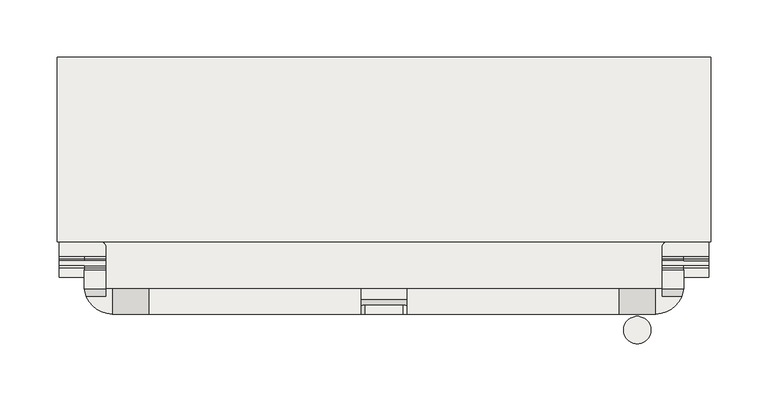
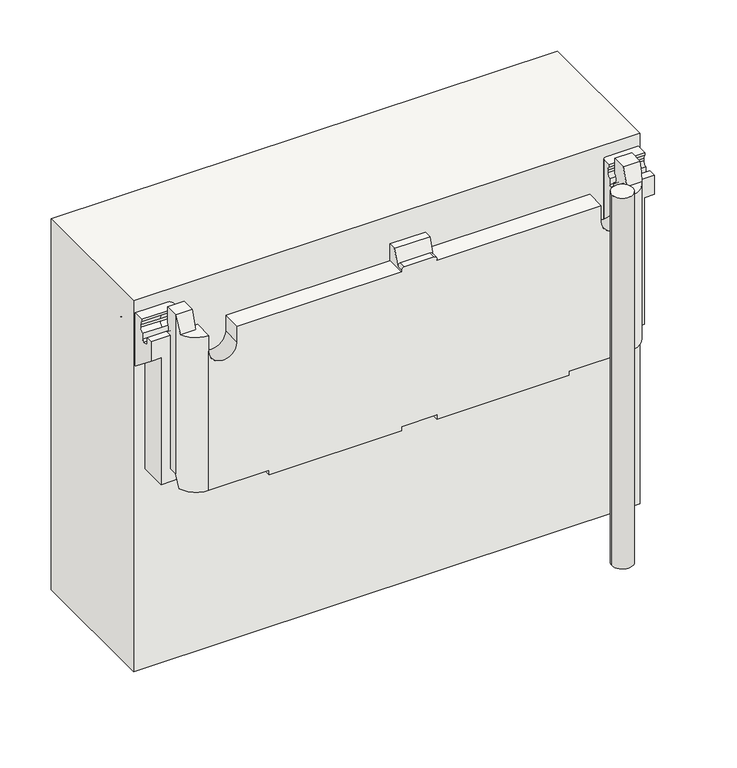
"""IFC4 building model written with IfcOpenShell, lengths in millimetres: covering geometry, panel VP Modulo prova ultima texture : panel VP Modulo prova ultima texture."""

from ifc_helpers import new_model, si_unit, point, frame, frame_2d, origin, origin_with_axes, place, context, project, spatial, polyline, circle_curve, ellipse_curve, trimmed, segment, composite_curve, outline, extrude, source, transform, mapped, element, save
from ifc_brep_helpers import plane_surface, cylinder_surface, revolved_surface, advanced_brep


def covering_a6f7bad7(model_context):
    return source(origin(), model_context, "Body", "SolidModel", [
        advanced_brep(
        [(-20.0, 40.503817, 442.8593239), (-20.0, 49.5015434, 442.8593239), (-20.0, 49.5015434, 422.8622671), (-20.0, 27.5015432, 422.8622671), (-20.0, 27.5015432, 424.8622671), (-20.0, 34.5021229, 424.8622671), (20.0, 49.5015434, 442.8593239), (20.0, 40.503817, 442.8593239), (20.0, 34.5021229, 424.8622671), (20.0, 27.5015432, 424.8622671), (20.0, 27.5015432, 422.8622671), (20.0, 49.5015434, 422.8622671), (-17.0, 35.5025688, 427.8622671), (17.0, 35.5025688, 427.8622671), (17.0, 27.5015432, 427.8622671), (-17.0, 27.5015432, 427.8622671), (-262.4808119, 49.5015434, 442.8571429), (-262.4808119, 65.772467, 442.8571429), (-262.4808119, 65.772467, 424.9140987), (-262.4808119, 63.7739273, 420.0185877), (-262.4808119, 63.7739273, 417.0185877), (-262.4808119, 67.7745502, 412.3223878), (-262.4808119, 59.5, 412.3223878), (-262.4808119, 59.5, 252.8579803), (-262.4808119, 49.5015434, 252.8579803), (262.4808119, 67.7745502, 412.3223878), (262.4808119, 63.7739273, 417.0185877), (262.4808119, 63.7739273, 420.0185877), (262.4808119, 65.772467, 424.9140987), (262.4808119, 65.772467, 442.8571429), (262.4808119, 49.5015434, 442.8571429), (262.4808119, 49.5015434, 252.8579803), (262.4808119, 59.5, 252.8579803), (262.4808119, 59.5, 412.3223878), (205.7808119, 27.5015432, 422.8622671), (205.7808119, 49.5015434, 422.8622671), (243.7808119, 42.6167555, 422.8622671), (243.7808119, 49.5015434, 422.8622671), (237.7808119, 49.5015434, 422.8622671), (237.7808119, 27.5015432, 422.8622671), (260.6550436, 42.6167555, 422.8622671), (-237.7808119, 27.5015432, 422.8622671), (-237.7808119, 49.5015434, 422.8622671), (-243.7808119, 49.5015434, 422.8622671), (-243.7808119, 42.6167555, 422.8622671), (-260.6550436, 42.6167555, 422.8622671), (-205.7808119, 49.5015434, 422.8622671), (-205.7808119, 27.5015432, 422.8622671), (-262.4808119, 109.8415131, 259.8586567), (262.4808119, 109.8415131, 259.8586567), (262.4808119, 141.2113001, 287.4991493), (-262.4808119, 141.2113001, 287.4991493), (-262.4808119, 147.3447094, 293.9613768), (262.4808119, 147.3447094, 293.9613768), (262.4808119, 184.4941844, 340.844032), (-262.4808119, 184.4941844, 340.844032), (262.4808119, 184.4941844, 367.8428869), (-262.4808119, 184.4941844, 367.8428869), (284.4808119, 184.4914281, 367.8428869), (284.4808119, 202.488872, 367.8428869), (-284.4808119, 202.488872, 367.8428869), (-284.4808119, 184.4914281, 367.8428869), (-284.4808119, 202.488872, 328.1296117), (284.4808119, 202.488872, 328.1296117), (262.4808119, 193.4423608, 286.7510809), (-262.4808119, 193.4423608, 286.7510809), (-284.4808119, 193.4423608, 286.7510809), (284.4808119, 193.4423608, 286.7510809), (262.4808119, 190.281945, 285.6233908), (-262.4808119, 190.281945, 285.6233908), (284.4808119, 190.281945, 285.6233908), (284.4808119, 59.5, 389.2540452), (273.4808119, 59.5, 389.2540452), (273.4808119, 180.2456216, 293.5760999), (262.4808119, 180.2456216, 293.5760999), (-262.4808119, 180.2456216, 293.5760999), (-273.4808119, 180.2456216, 293.5760999), (-273.4808119, 59.5, 389.2540452), (-284.4808119, 59.5, 389.2540452), (-284.4808119, 190.281945, 285.6233908), (262.4808119, 174.5899002, 292.921018), (-262.4808119, 174.5899002, 292.921018), (273.4808119, 174.5899002, 292.921018), (273.4808119, 160.5878776, 275.2504937), (-273.4808119, 160.5878776, 275.2504937), (-273.4808119, 174.5899002, 292.921018), (-273.4808119, 118.1414154, 237.8501402), (273.4808119, 118.1414154, 237.8501402), (237.7808119, 118.1414154, 237.8501402), (197.7808119, 118.1414154, 237.8501402), (20.0, 118.1414154, 237.8501402), (-20.0, 118.1414154, 237.8501402), (-197.7808119, 118.1414154, 237.8501402), (-237.7808119, 118.1414154, 237.8501402), (-273.4808119, 59.5, 237.8622688), (-237.7808119, 78.1414154, 237.8622688), (-197.7808119, 78.1414154, 237.8622688), (-20.0, 78.1414154, 237.8622688), (20.0, 78.1414154, 237.8622688), (197.7808119, 78.1414154, 237.8622688), (237.7808119, 78.1414154, 237.8622688), (273.4808119, 59.5, 237.8622688), (252.4808119, 59.5, 237.8622688), (252.4808119, 44.6291413, 237.8622688), (261.4118126, 44.6291413, 237.8622688), (237.7808119, 27.5015432, 237.8622688), (169.4808119, 27.5015432, 237.8622688), (169.4808119, 67.5015432, 237.8622688), (20.0, 67.5015432, 237.8622688), (20.0, 27.5015432, 237.8622688), (-20.0, 27.5015432, 237.8622688), (-20.0, 67.5015432, 237.8622688), (-169.4808119, 67.5015432, 237.8622688), (-169.4808119, 27.5015432, 237.8622688), (-237.7808119, 27.5015432, 237.8622688), (-261.4118126, 44.6291413, 237.8622688), (-252.4808119, 44.6291413, 237.8622688), (-252.4808119, 59.5, 237.8622688), (-205.7808119, 27.5015432, 403.8387365), (-237.7808119, 27.5015432, 403.8387365), (-169.4808119, 27.5015432, 232.8526833), (-20.0, 27.5015432, 232.8526833), (20.0, 27.5015432, 232.8526833), (169.4808119, 27.5015432, 232.8526833), (237.7808119, 27.5015432, 403.8387365), (205.7808119, 27.5015432, 403.8387365), (-237.7808119, 49.5015434, 403.8387365), (-205.7808119, 49.5015434, 403.8387365), (205.7808119, 49.5015434, 403.8387365), (237.7808119, 49.5015434, 403.8387365), (243.7808119, 49.5015434, 259.8586567), (-243.7808119, 49.5015434, 259.8586567), (-262.4808119, 101.3665857, 259.8586567), (-251.8742102, 90.7599839, 259.8586567), (-248.1742102, 90.7599839, 259.8586567), (-243.7808119, 86.3665857, 259.8586567), (243.7808119, 86.3665857, 259.8586567), (248.1742102, 90.7599839, 259.8586567), (251.8742102, 90.7599839, 259.8586567), (262.4808119, 101.3665857, 259.8586567), (-284.4808119, 59.5, 412.3223878), (-284.4808119, 67.7745502, 412.3223878), (-284.4808119, 67.7745502, 405.3225531), (-284.4808119, 69.7745502, 403.3225531), (-284.4808119, 74.0001297, 403.3225531), (-284.4808119, 76.0001297, 405.3225531), (-284.4808119, 76.0001297, 412.3223878), (-284.4808119, 80.0007527, 417.0185877), (-284.4808119, 80.0007527, 420.0185877), (-284.4808119, 78.002213, 424.9140987), (-284.4808119, 78.002213, 427.8658136), (-284.4808119, 115.166168, 427.8658136), (-284.4808119, 118.166168, 424.8658136), (-284.4808119, 118.166168, 408.5852612), (-284.4808119, 119.6447617, 405.9996621), (-262.4808119, 119.6447617, 405.9996621), (-262.4808119, 118.166168, 408.5852612), (-262.4808119, 118.166168, 424.8658136), (-262.4808119, 115.166168, 427.8658136), (-262.4808119, 101.3665857, 427.8658136), (-252.4808119, 59.5, 252.8579803), (-243.7808119, 67.7745502, 412.3223878), (-243.7808119, 67.7745502, 405.3225531), (-262.4808119, 67.7745502, 405.3225531), (-262.4808119, 69.7745502, 403.3225531), (-243.7808119, 69.7745502, 403.3225531), (-243.7808119, 74.0001297, 403.3225531), (-262.4808119, 74.0001297, 403.3225531), (-262.4808119, 76.0001297, 405.3225531), (-243.7808119, 76.0001297, 405.3225531), (-243.7808119, 76.0001297, 412.3223878), (-262.4808119, 76.0001297, 412.3223878), (-262.4808119, 80.0007527, 417.0185877), (-243.7808119, 80.0007527, 417.0185877), (-243.7808119, 80.0007527, 420.0185877), (-262.4808119, 80.0007527, 420.0185877), (-262.4808119, 78.002213, 424.9140987), (-243.7808119, 78.002213, 424.9140987), (-243.7808119, 78.002213, 427.8658136), (-243.7808119, 86.3665857, 427.8658136), (-248.1742102, 90.7599839, 427.8658136), (-251.8742102, 90.7599839, 427.8658136), (-243.7808119, 63.7739273, 417.0185877), (-243.7808119, 63.7739273, 420.0185877), (-243.7808119, 65.772467, 424.9140987), (-243.7808119, 65.772467, 442.8571429), (-243.7808119, 49.5015434, 442.8571429), (284.4808119, 119.6447617, 405.9996621), (284.4808119, 118.166168, 408.5852612), (284.4808119, 118.166168, 424.8658136), (284.4808119, 115.166168, 427.8658136), (284.4808119, 78.002213, 427.8658136), (284.4808119, 78.002213, 424.9140987), (284.4808119, 80.0007527, 420.0185877), (284.4808119, 80.0007527, 417.0185877), (284.4808119, 76.0001297, 412.3223878), (284.4808119, 76.0001297, 405.3225531), (284.4808119, 74.0001297, 403.3225531), (284.4808119, 69.7745502, 403.3225531), (284.4808119, 67.7745502, 405.3225531), (284.4808119, 67.7745502, 412.3223878), (284.4808119, 59.5, 412.3223878), (262.4808119, 115.166168, 427.8658136), (262.4808119, 118.166168, 424.8658136), (262.4808119, 118.166168, 408.5852612), (262.4808119, 119.6447617, 405.9996621), (262.4808119, 101.3665857, 427.8658136), (252.4808119, 59.5, 252.8579803), (262.4808119, 69.7745502, 403.3225531), (262.4808119, 67.7745502, 405.3225531), (262.4808119, 76.0001297, 405.3225531), (262.4808119, 74.0001297, 403.3225531), (262.4808119, 80.0007527, 417.0185877), (262.4808119, 76.0001297, 412.3223878), (262.4808119, 78.002213, 424.9140987), (262.4808119, 80.0007527, 420.0185877), (243.7808119, 49.5015434, 442.8571429), (243.7808119, 65.772467, 442.8571429), (243.7808119, 65.772467, 424.9140987), (243.7808119, 63.7739273, 420.0185877), (243.7808119, 63.7739273, 417.0185877), (243.7808119, 67.7745502, 412.3223878), (243.7808119, 67.7745502, 405.3225531), (243.7808119, 69.7745502, 403.3225531), (243.7808119, 74.0001297, 403.3225531), (243.7808119, 76.0001297, 405.3225531), (243.7808119, 76.0001297, 412.3223878), (243.7808119, 80.0007527, 417.0185877), (243.7808119, 80.0007527, 420.0185877), (243.7808119, 78.002213, 424.9140987), (243.7808119, 78.002213, 427.8658136), (243.7808119, 86.3665857, 427.8658136), (251.8742102, 90.7599839, 427.8658136), (248.1742102, 90.7599839, 427.8658136), (237.7808119, 78.1414154, 232.8526833), (197.7808119, 78.1414154, 232.8526833), (197.7808119, 118.1414154, 232.8526833), (237.7808119, 118.1414154, 232.8526833), (-20.0, 78.1414154, 232.8526833), (-20.0, 118.1414154, 232.8526833), (20.0, 118.1414154, 232.8526833), (20.0, 78.1414154, 232.8526833), (-237.7808119, 78.1414154, 232.8526833), (-237.7808119, 118.1414154, 232.8526833), (-197.7808119, 118.1414154, 232.8526833), (-197.7808119, 78.1414154, 232.8526833), (20.0, 67.5015432, 232.8526833), (169.4808119, 67.5015432, 232.8526833), (-20.0, 67.5015432, 232.8526833), (-169.4808119, 67.5015432, 232.8526833), (-252.4808119, 49.5015434, 252.8579803), (252.4808119, 49.5015434, 252.8579803)],
        [
            (0, 1),
            (1, 2),
            (2, 3),
            (3, 4),
            (4, 5),
            (5, 0),
            (6, 7),
            (7, 8),
            (8, 9),
            (9, 10),
            (10, 11),
            (11, 6),
            (0, 7),
            (6, 1),
            (5, 12, ellipse_curve(frame((-17.0, 34.5021229, 424.8622671), z_axis=(0.0, 0.9486409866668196, -0.31635467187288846), x_axis=(0.0, 0.31635467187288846, 0.9486409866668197)), 3.1624187, 3.0)),
            (12, 13),
            (13, 8, ellipse_curve(frame((17.0, 34.5021229, 424.8622671), z_axis=(0.0, 0.9486409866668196, -0.31635467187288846), x_axis=(0.0, 0.31635467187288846, 0.9486409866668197)), 3.1624187, 3.0)),
            (14, 9, circle_curve(frame((17.0, 27.5015432, 424.8622671), z_axis=(0.0, 1.0, 0.0), x_axis=(-1.0, 0.0, 0.0)), 3.0)),
            (13, 14),
            (4, 15, circle_curve(frame((-17.0, 27.5015432, 424.8622671), z_axis=(0.0, 1.0, 0.0), x_axis=(-1.0, 0.0, 0.0)), 3.0)),
            (15, 12),
            (15, 14),
            (16, 17),
            (17, 18),
            (18, 19, circle_curve(frame((-262.4808119, 70.7690822, 420.0185877), z_axis=(1.0, 0.0, 0.0), x_axis=(0.0, -1.0, 0.0)), 6.9951549)),
            (19, 20),
            (20, 21, circle_curve(frame((-262.4808119, 68.5305961, 417.0185877), z_axis=(1.0, 0.0, 0.0), x_axis=(0.0, -1.0, 0.0)), 4.7566689)),
            (21, 22),
            (22, 23),
            (23, 24),
            (24, 16),
            (25, 26, circle_curve(frame((262.4808119, 68.5305961, 417.0185877), z_axis=(-1.0, 0.0, 0.0), x_axis=(0.0, -1.0, 0.0)), 4.7566689)),
            (26, 27),
            (27, 28, circle_curve(frame((262.4808119, 70.7690822, 420.0185877), z_axis=(-1.0, 0.0, 0.0), x_axis=(0.0, -1.0, 0.0)), 6.9951549)),
            (28, 29),
            (29, 30),
            (30, 31),
            (31, 32),
            (32, 33),
            (33, 25),
            (10, 34),
            (34, 35),
            (35, 11),
            (36, 37),
            (37, 38),
            (38, 39),
            (39, 40, circle_curve(frame((237.7808119, 52.367225, 422.8622671), z_axis=(0.0, 0.0, 1.0), x_axis=(1.0, 0.0, 0.0)), 24.8656818)),
            (40, 36),
            (41, 42),
            (42, 43),
            (43, 44),
            (44, 45),
            (45, 41, circle_curve(frame((-237.7808119, 52.367225, 422.8622671), z_axis=(0.0, 0.0, 1.0), x_axis=(-1.0, 0.0, 0.0)), 24.8656818)),
            (46, 47),
            (47, 3),
            (2, 46),
            (48, 49),
            (49, 50),
            (50, 51),
            (51, 48),
            (52, 53),
            (53, 54),
            (54, 55),
            (55, 52),
            (54, 56),
            (56, 57),
            (57, 55),
            (56, 58),
            (58, 59),
            (59, 60),
            (60, 61),
            (61, 57),
            (62, 60),
            (59, 63),
            (63, 62),
            (64, 65),
            (65, 66),
            (66, 62),
            (63, 67),
            (67, 64),
            (64, 68, circle_curve(frame((262.4808119, 191.5102381, 287.1734973), z_axis=(-1.0, 0.0, 0.0), x_axis=(0.0, -1.0, 0.0)), 1.9777598)),
            (68, 69),
            (69, 65, circle_curve(frame((-262.4808119, 191.5102381, 287.1734973), z_axis=(1.0, 0.0, 0.0), x_axis=(0.0, -1.0, 0.0)), 1.9777598)),
            (68, 70),
            (70, 71),
            (71, 72),
            (72, 73),
            (73, 74),
            (74, 75),
            (75, 76),
            (76, 77),
            (77, 78),
            (78, 79),
            (79, 69),
            (74, 80, circle_curve(frame((262.4808119, 177.7453022, 290.4206954), z_axis=(1.0, 0.0, 0.0), x_axis=(0.0, -1.0, 0.0)), 4.0259377)),
            (80, 81),
            (81, 75, circle_curve(frame((-262.4808119, 177.7453022, 290.4206954), z_axis=(-1.0, 0.0, 0.0), x_axis=(0.0, -1.0, 0.0)), 4.0259377)),
            (80, 82),
            (82, 83),
            (83, 84),
            (84, 85),
            (85, 81),
            (86, 84),
            (83, 87),
            (87, 88),
            (88, 89),
            (89, 90),
            (90, 91),
            (91, 92),
            (92, 93),
            (93, 86),
            (50, 53, circle_curve(frame((262.4808119, 108.1562691, 325.014012), z_axis=(1.0, 0.0, 0.0), x_axis=(0.0, -1.0, 0.0)), 50.0)),
            (52, 51, circle_curve(frame((-262.4808119, 108.1562691, 325.014012), z_axis=(-1.0, 0.0, 0.0), x_axis=(0.0, -1.0, 0.0)), 50.0)),
            (94, 86),
            (93, 95),
            (95, 96),
            (96, 92),
            (91, 97),
            (97, 98),
            (98, 90),
            (89, 99),
            (99, 100),
            (100, 88),
            (87, 101),
            (101, 102),
            (102, 103),
            (103, 104),
            (104, 105, circle_curve(frame((237.7808119, 52.367225, 237.8622688), z_axis=(0.0, 0.0, -1.0), x_axis=(1.0, 0.0, 0.0)), 24.8656818)),
            (105, 106),
            (106, 107),
            (107, 108),
            (108, 109),
            (109, 110),
            (110, 111),
            (111, 112),
            (112, 113),
            (113, 114),
            (114, 115, circle_curve(frame((-237.7808119, 52.367225, 237.8622688), z_axis=(0.0, 0.0, -1.0), x_axis=(-1.0, 0.0, 0.0)), 24.8656818)),
            (115, 116),
            (116, 117),
            (117, 94),
            (47, 118),
            (118, 119, circle_curve(frame((-221.7808119, 27.5015432, 403.8387365), z_axis=(0.0, 1.0, 0.0), x_axis=(-1.0, 0.0, 0.0)), 16.0)),
            (119, 114),
            (113, 120),
            (120, 121),
            (121, 110),
            (109, 122),
            (122, 123),
            (123, 106),
            (105, 124),
            (124, 125, circle_curve(frame((221.7808119, 27.5015432, 403.8387365), z_axis=(0.0, 1.0, 0.0), x_axis=(1.0, 0.0, 0.0)), 16.0)),
            (125, 34),
            (42, 126),
            (126, 127, circle_curve(frame((-221.7808119, 49.5015434, 403.8387365), z_axis=(0.0, -1.0, 0.0), x_axis=(-1.0, 0.0, 0.0)), 16.0)),
            (127, 46),
            (35, 128),
            (128, 129, circle_curve(frame((221.7808119, 49.5015434, 403.8387365), z_axis=(0.0, -1.0, 0.0), x_axis=(1.0, 0.0, 0.0)), 16.0)),
            (129, 38),
            (37, 130),
            (130, 131),
            (131, 43),
            (48, 132),
            (132, 133, circle_curve(frame((-251.8742102, 101.3665857, 259.8586567), z_axis=(0.0, 0.0, 1.0), x_axis=(-1.0, 0.0, 0.0)), 10.6066017)),
            (133, 134),
            (134, 135, circle_curve(frame((-248.1742102, 86.3665857, 259.8586567), z_axis=(0.0, 0.0, -1.0), x_axis=(-1.0, 0.0, 0.0)), 4.3933983)),
            (135, 131),
            (130, 136),
            (136, 137, circle_curve(frame((248.1742102, 86.3665857, 259.8586567), z_axis=(0.0, 0.0, -1.0), x_axis=(1.0, 0.0, 0.0)), 4.3933983)),
            (137, 138),
            (138, 139, circle_curve(frame((251.8742102, 101.3665857, 259.8586567), z_axis=(0.0, 0.0, 1.0), x_axis=(1.0, 0.0, 0.0)), 10.6066017)),
            (139, 49),
            (66, 79, circle_curve(frame((-284.4808119, 191.5102381, 287.1734973), z_axis=(-1.0, 0.0, 0.0), x_axis=(0.0, -1.0, 0.0)), 1.9777598)),
            (78, 140),
            (140, 141),
            (141, 142),
            (142, 143, circle_curve(frame((-284.4808119, 69.7745502, 405.3225531), z_axis=(1.0, 0.0, 0.0), x_axis=(0.0, -1.0, 0.0)), 2.0)),
            (143, 144),
            (144, 145, circle_curve(frame((-284.4808119, 74.0001297, 405.3225531), z_axis=(1.0, 0.0, 0.0), x_axis=(0.0, -1.0, 0.0)), 2.0)),
            (145, 146),
            (146, 147, circle_curve(frame((-284.4808119, 75.2440838, 417.0185877), z_axis=(1.0, 0.0, 0.0), x_axis=(0.0, -1.0, 0.0)), 4.7566689)),
            (147, 148),
            (148, 149, circle_curve(frame((-284.4808119, 73.0055977, 420.0185877), z_axis=(1.0, 0.0, 0.0), x_axis=(0.0, -1.0, 0.0)), 6.9951549)),
            (149, 150),
            (150, 151),
            (151, 152, circle_curve(frame((-284.4808119, 115.166168, 424.8658136), z_axis=(-1.0, 0.0, 0.0), x_axis=(0.0, -1.0, 0.0)), 3.0)),
            (152, 153),
            (153, 154, circle_curve(frame((-284.4808119, 121.166168, 408.5852612), z_axis=(1.0, 0.0, 0.0), x_axis=(0.0, -1.0, 0.0)), 3.0)),
            (154, 61),
            (57, 155),
            (155, 156, circle_curve(frame((-262.4808119, 121.166168, 408.5852612), z_axis=(-1.0, 0.0, 0.0), x_axis=(0.0, -1.0, 0.0)), 3.0)),
            (156, 157),
            (157, 158, circle_curve(frame((-262.4808119, 115.166168, 424.8658136), z_axis=(1.0, 0.0, 0.0), x_axis=(0.0, -1.0, 0.0)), 3.0)),
            (158, 159),
            (159, 132),
            (77, 94),
            (117, 160),
            (160, 23),
            (22, 140),
            (141, 21),
            (21, 161),
            (161, 162),
            (162, 163),
            (163, 142),
            (163, 164, circle_curve(frame((-262.4808119, 69.7745502, 405.3225531), z_axis=(1.0, 0.0, 0.0), x_axis=(0.0, -1.0, 0.0)), 2.0)),
            (164, 143),
            (164, 165),
            (165, 166),
            (166, 167),
            (167, 144),
            (167, 168, circle_curve(frame((-262.4808119, 74.0001297, 405.3225531), z_axis=(1.0, 0.0, 0.0), x_axis=(0.0, -1.0, 0.0)), 2.0)),
            (168, 145),
            (168, 169),
            (169, 170),
            (170, 171),
            (171, 146),
            (171, 172, circle_curve(frame((-262.4808119, 75.2440838, 417.0185877), z_axis=(1.0, 0.0, 0.0), x_axis=(0.0, -1.0, 0.0)), 4.7566689)),
            (172, 147),
            (172, 173),
            (173, 174),
            (174, 175),
            (175, 148),
            (175, 176, circle_curve(frame((-262.4808119, 73.0055977, 420.0185877), z_axis=(1.0, 0.0, 0.0), x_axis=(0.0, -1.0, 0.0)), 6.9951549)),
            (176, 149),
            (176, 177),
            (177, 178),
            (178, 150),
            (178, 179),
            (179, 180, circle_curve(frame((-248.1742102, 86.3665857, 427.8658136), z_axis=(0.0, 0.0, 1.0), x_axis=(-1.0, 0.0, 0.0)), 4.3933983)),
            (180, 181),
            (181, 159, circle_curve(frame((-251.8742102, 101.3665857, 427.8658136), z_axis=(0.0, 0.0, -1.0), x_axis=(-1.0, 0.0, 0.0)), 10.6066017)),
            (158, 151),
            (157, 152),
            (156, 153),
            (155, 154),
            (76, 85, circle_curve(frame((-273.4808119, 177.7453022, 290.4206954), z_axis=(1.0, 0.0, 0.0), x_axis=(0.0, -1.0, 0.0)), 4.0259377)),
            (45, 16, ellipse_curve(frame((-237.7808119, 52.367225, 451.1796865), z_axis=(0.0, 0.9455185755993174, -0.32556815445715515), x_axis=(0.0, -0.3255681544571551, -0.9455185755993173)), 76.3762716, 24.8656818)),
            (24, 115, ellipse_curve(frame((-237.7808119, 52.367225, 261.6776414), z_axis=(0.0, -0.9510565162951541, 0.3090169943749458), x_axis=(0.0, -0.30901699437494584, -0.9510565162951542)), 80.4670366, 24.8656818)),
            (119, 41),
            (177, 174, circle_curve(frame((-243.7808119, 73.0055977, 420.0185877), z_axis=(-1.0, 0.0, 0.0), x_axis=(0.0, -1.0, 0.0)), 6.9951549)),
            (173, 170, circle_curve(frame((-243.7808119, 75.2440838, 417.0185877), z_axis=(-1.0, 0.0, 0.0), x_axis=(0.0, -1.0, 0.0)), 4.7566689)),
            (169, 166, circle_curve(frame((-243.7808119, 74.0001297, 405.3225531), z_axis=(-1.0, 0.0, 0.0), x_axis=(0.0, -1.0, 0.0)), 2.0)),
            (165, 162, circle_curve(frame((-243.7808119, 69.7745502, 405.3225531), z_axis=(-1.0, 0.0, 0.0), x_axis=(0.0, -1.0, 0.0)), 2.0)),
            (161, 182, circle_curve(frame((-243.7808119, 68.5305961, 417.0185877), z_axis=(-1.0, 0.0, 0.0), x_axis=(0.0, -1.0, 0.0)), 4.7566689)),
            (182, 183),
            (183, 184, circle_curve(frame((-243.7808119, 70.7690822, 420.0185877), z_axis=(-1.0, 0.0, 0.0), x_axis=(0.0, -1.0, 0.0)), 6.9951549)),
            (184, 185),
            (185, 186),
            (186, 44),
            (135, 179),
            (16, 186),
            (185, 17),
            (184, 18),
            (183, 19),
            (182, 20),
            (134, 180),
            (133, 181),
            (39, 124),
            (104, 31, ellipse_curve(frame((237.7808119, 52.367225, 261.6776414), z_axis=(0.0, -0.9510565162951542, 0.3090169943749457), x_axis=(0.0, -0.3090169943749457, -0.9510565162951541)), 80.4670366, 24.8656818)),
            (30, 40, ellipse_curve(frame((237.7808119, 52.367225, 451.1796865), z_axis=(0.0, 0.9455185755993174, -0.3255681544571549), x_axis=(0.0, -0.3255681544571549, -0.9455185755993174)), 76.3762716, 24.8656818)),
            (58, 187),
            (187, 188, circle_curve(frame((284.4808119, 121.166168, 408.5852612), z_axis=(-1.0, 0.0, 0.0), x_axis=(0.0, -1.0, 0.0)), 3.0)),
            (188, 189),
            (189, 190, circle_curve(frame((284.4808119, 115.166168, 424.8658136), z_axis=(1.0, 0.0, 0.0), x_axis=(0.0, -1.0, 0.0)), 3.0)),
            (190, 191),
            (191, 192),
            (192, 193, circle_curve(frame((284.4808119, 73.0055977, 420.0185877), z_axis=(-1.0, 0.0, 0.0), x_axis=(0.0, -1.0, 0.0)), 6.9951549)),
            (193, 194),
            (194, 195, circle_curve(frame((284.4808119, 75.2440838, 417.0185877), z_axis=(-1.0, 0.0, 0.0), x_axis=(0.0, -1.0, 0.0)), 4.7566689)),
            (195, 196),
            (196, 197, circle_curve(frame((284.4808119, 74.0001297, 405.3225531), z_axis=(-1.0, 0.0, 0.0), x_axis=(0.0, -1.0, 0.0)), 2.0)),
            (197, 198),
            (198, 199, circle_curve(frame((284.4808119, 69.7745502, 405.3225531), z_axis=(-1.0, 0.0, 0.0), x_axis=(0.0, -1.0, 0.0)), 2.0)),
            (199, 200),
            (200, 201),
            (201, 71),
            (70, 67, circle_curve(frame((284.4808119, 191.5102381, 287.1734973), z_axis=(1.0, 0.0, 0.0), x_axis=(0.0, -1.0, 0.0)), 1.9777598)),
            (202, 203, circle_curve(frame((262.4808119, 115.166168, 424.8658136), z_axis=(-1.0, 0.0, 0.0), x_axis=(0.0, -1.0, 0.0)), 3.0)),
            (203, 204),
            (204, 205, circle_curve(frame((262.4808119, 121.166168, 408.5852612), z_axis=(1.0, 0.0, 0.0), x_axis=(0.0, -1.0, 0.0)), 3.0)),
            (205, 56),
            (139, 206),
            (206, 202),
            (201, 33),
            (32, 207),
            (207, 102),
            (101, 72),
            (198, 208),
            (208, 209, circle_curve(frame((262.4808119, 69.7745502, 405.3225531), z_axis=(-1.0, 0.0, 0.0), x_axis=(0.0, -1.0, 0.0)), 2.0)),
            (209, 199),
            (196, 210),
            (210, 211, circle_curve(frame((262.4808119, 74.0001297, 405.3225531), z_axis=(-1.0, 0.0, 0.0), x_axis=(0.0, -1.0, 0.0)), 2.0)),
            (211, 197),
            (194, 212),
            (212, 213, circle_curve(frame((262.4808119, 75.2440838, 417.0185877), z_axis=(-1.0, 0.0, 0.0), x_axis=(0.0, -1.0, 0.0)), 4.7566689)),
            (213, 195),
            (192, 214),
            (214, 215, circle_curve(frame((262.4808119, 73.0055977, 420.0185877), z_axis=(-1.0, 0.0, 0.0), x_axis=(0.0, -1.0, 0.0)), 6.9951549)),
            (215, 193),
            (189, 203),
            (202, 190),
            (188, 204),
            (187, 205),
            (200, 25),
            (36, 216),
            (216, 217),
            (217, 218),
            (218, 219, circle_curve(frame((243.7808119, 70.7690822, 420.0185877), z_axis=(1.0, 0.0, 0.0), x_axis=(0.0, -1.0, 0.0)), 6.9951549)),
            (219, 220),
            (220, 221, circle_curve(frame((243.7808119, 68.5305961, 417.0185877), z_axis=(1.0, 0.0, 0.0), x_axis=(0.0, -1.0, 0.0)), 4.7566689)),
            (221, 222),
            (222, 223, circle_curve(frame((243.7808119, 69.7745502, 405.3225531), z_axis=(1.0, 0.0, 0.0), x_axis=(0.0, -1.0, 0.0)), 2.0)),
            (223, 224),
            (224, 225, circle_curve(frame((243.7808119, 74.0001297, 405.3225531), z_axis=(1.0, 0.0, 0.0), x_axis=(0.0, -1.0, 0.0)), 2.0)),
            (225, 226),
            (226, 227, circle_curve(frame((243.7808119, 75.2440838, 417.0185877), z_axis=(1.0, 0.0, 0.0), x_axis=(0.0, -1.0, 0.0)), 4.7566689)),
            (227, 228),
            (228, 229, circle_curve(frame((243.7808119, 73.0055977, 420.0185877), z_axis=(1.0, 0.0, 0.0), x_axis=(0.0, -1.0, 0.0)), 6.9951549)),
            (229, 230),
            (230, 231),
            (231, 136),
            (221, 25),
            (209, 222),
            (208, 223),
            (29, 217),
            (216, 30),
            (28, 218),
            (27, 219),
            (26, 220),
            (211, 224),
            (210, 225),
            (213, 226),
            (212, 227),
            (215, 228),
            (214, 229),
            (191, 230),
            (206, 232, circle_curve(frame((251.8742102, 101.3665857, 427.8658136), z_axis=(0.0, 0.0, -1.0), x_axis=(1.0, 0.0, 0.0)), 10.6066017)),
            (232, 233),
            (233, 231, circle_curve(frame((248.1742102, 86.3665857, 427.8658136), z_axis=(0.0, 0.0, 1.0), x_axis=(1.0, 0.0, 0.0)), 4.3933983)),
            (233, 137),
            (232, 138),
            (119, 126),
            (127, 118),
            (129, 124),
            (125, 128),
            (82, 73, circle_curve(frame((273.4808119, 177.7453022, 290.4206954), z_axis=(-1.0, 0.0, 0.0), x_axis=(0.0, -1.0, 0.0)), 4.0259377)),
            (234, 235),
            (235, 236),
            (236, 237),
            (237, 234),
            (234, 100),
            (99, 235),
            (89, 236),
            (88, 237),
            (238, 239),
            (239, 240),
            (240, 241),
            (241, 238),
            (241, 98),
            (97, 238),
            (240, 90),
            (239, 91),
            (242, 243),
            (243, 244),
            (244, 245),
            (245, 242),
            (245, 96),
            (95, 242),
            (244, 92),
            (243, 93),
            (246, 247),
            (247, 123),
            (122, 246),
            (248, 121),
            (120, 249),
            (249, 248),
            (108, 246),
            (247, 107),
            (249, 112),
            (111, 248),
            (250, 160),
            (116, 250),
            (250, 24),
            (251, 103),
            (207, 251),
            (31, 251),
        ],
        [
            plane_surface(frame((-20.0, 49.5042184, 442.8593239), z_axis=(-1.0, 0.0, 0.0), x_axis=(0.0, 1.0, 0.0))),
            plane_surface(frame((20.0, 49.5042184, 442.8593239), z_axis=(1.0, 0.0, 0.0), x_axis=(0.0, -1.0, 0.0))),
            plane_surface(frame((-20.0, 40.503817, 442.8593239), z_axis=(0.0, 0.0, 1.0), x_axis=(1.0, 0.0, 0.0))),
            plane_surface(frame((-20.0, 33.835159, 422.8622671), z_axis=(0.0, -0.9486409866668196, 0.31635467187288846), x_axis=(1.0, 0.0, 0.0))),
            cylinder_surface(frame((17.0, 27.5015432, 424.8622671), z_axis=(0.0, 1.0, 0.0), x_axis=(-1.0, 0.0, 0.0)), 3.0),
            cylinder_surface(frame((-17.0, 27.5015432, 424.8622671), z_axis=(0.0, 1.0, 0.0), x_axis=(-1.0, 0.0, 0.0)), 3.0),
            plane_surface(frame((-17.0, 49.501543, 427.8622671), z_axis=(0.0, 0.0, 1.0), x_axis=(0.0, -1.0, 0.0))),
            plane_surface(frame((-262.4808119, 118.1414154, 237.8501402), z_axis=(-1.0, 0.0, 0.0), x_axis=(0.0, -0.7502972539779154, -0.6611006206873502))),
            plane_surface(frame((262.4808119, 118.1414154, 237.8501402), z_axis=(1.0, 0.0, 0.0), x_axis=(0.0, 0.7502972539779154, 0.6611006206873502))),
            plane_surface(frame((-262.4808119, 27.5015432, 422.8622671), z_axis=(0.0, 0.0, 1.0), x_axis=(1.0, 0.0, 0.0))),
            plane_surface(frame((-262.4808119, 109.8415131, 259.8586567), z_axis=(0.0, -0.6611006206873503, 0.7502972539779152), x_axis=(1.0, 0.0, 0.0))),
            plane_surface(frame((-262.4808119, 147.3447094, 293.9613768), z_axis=(0.0, -0.7837688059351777, 0.6210527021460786), x_axis=(1.0, 0.0, 0.0))),
            plane_surface(frame((-262.4808119, 184.4941844, 340.844032), z_axis=(0.0, -1.0, 0.0), x_axis=(1.0, 0.0, 0.0))),
            plane_surface(frame((-262.4808119, 184.4941844, 367.8428869), z_axis=(0.0, 0.0, 1.0), x_axis=(1.0, 0.0, 0.0))),
            plane_surface(frame((-262.4808119, 202.488872, 367.8428869), z_axis=(0.0, 1.0, 0.0), x_axis=(1.0, 0.0, 0.0))),
            plane_surface(frame((-262.4808119, 202.488872, 328.1296117), z_axis=(0.0, 0.9769248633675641, -0.21358326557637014), x_axis=(1.0, 0.0, 0.0))),
            cylinder_surface(frame((262.4808119, 191.5102381, 287.1734973), z_axis=(-1.0, 0.0, 0.0), x_axis=(0.0, -1.0, 0.0)), 1.9777598),
            plane_surface(frame((-262.4808119, 190.281945, 285.6233908), z_axis=(0.0, -0.6210526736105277, -0.7837688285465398), x_axis=(1.0, 0.0, 0.0))),
            revolved_surface(polyline([(262.4808119, 173.71936449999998, 290.4206954), (-262.4808119, 173.71936449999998, 290.4206954)]), (262.4808119, 177.7453022, 290.4206954), (1.0, 0.0, 0.0)),
            plane_surface(frame((-262.4808119, 174.5899002, 292.921018), z_axis=(0.0, 0.7837682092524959, -0.6210534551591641), x_axis=(1.0, 0.0, 0.0))),
            plane_surface(frame((-262.4808119, 160.5878776, 275.2504937), z_axis=(0.0, 0.6611006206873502, -0.7502972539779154), x_axis=(1.0, 0.0, 0.0))),
            revolved_surface(polyline([(262.4808119, 58.1562691, 325.014012), (-262.4808119, 58.1562691, 325.014012)]), (262.4808119, 108.1562691, 325.014012), (1.0, 0.0, 0.0)),
            plane_surface(frame((-262.4808119, 118.1551803, 237.8622688), z_axis=(0.0, 0.0, -1.0), x_axis=(1.0, 0.0, 0.0))),
            plane_surface(frame((-262.4808119, 27.5015432, 237.8622688), z_axis=(0.0, -1.0, 0.0), x_axis=(1.0, 0.0, 0.0))),
            plane_surface(frame((-262.4808119, 49.5015434, 422.8622671), z_axis=(0.0, 1.0, 0.0), x_axis=(1.0, 0.0, 0.0))),
            plane_surface(frame((-262.4808119, 49.5015434, 259.8586567), z_axis=(0.0, 0.0, 1.0), x_axis=(1.0, 0.0, 0.0))),
            plane_surface(frame((-284.4808119, 202.488872, 328.1296117), z_axis=(-1.0000000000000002, 0.0, 0.0), x_axis=(0.0, -0.21358326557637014, -0.9769248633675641))),
            plane_surface(frame((-262.4808119, 202.488872, 328.1296117), z_axis=(1.0000000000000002, 0.0, 0.0), x_axis=(0.0, 0.21358326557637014, 0.9769248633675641))),
            cylinder_surface(frame((-262.4808119, 191.5102381, 287.1734973), z_axis=(-1.0, 0.0, 0.0), x_axis=(0.0, -1.0, 0.0)), 1.9777598),
            plane_surface(frame((-284.4808119, 59.5, 389.2540452), z_axis=(0.0, -1.0, 0.0), x_axis=(1.0, 0.0, 0.0))),
            plane_surface(frame((-284.4808119, 67.7745502, 412.3223878), z_axis=(0.0, 1.0, 0.0), x_axis=(1.0, 0.0, 0.0))),
            revolved_surface(polyline([(-262.4808119, 67.7745502, 405.3225531), (-284.4808119, 67.7745502, 405.3225531)]), (-262.4808119, 69.7745502, 405.3225531), (1.0, 0.0, 0.0)),
            plane_surface(frame((-284.4808119, 69.7745502, 403.3225531), z_axis=(0.0, 0.0, 1.0), x_axis=(1.0, 0.0, 0.0))),
            revolved_surface(polyline([(-262.4808119, 72.0001297, 405.3225531), (-284.4808119, 72.0001297, 405.3225531)]), (-262.4808119, 74.0001297, 405.3225531), (1.0, 0.0, 0.0)),
            plane_surface(frame((-284.4808119, 76.0001297, 405.3225531), z_axis=(0.0, -1.0, 0.0), x_axis=(1.0, 0.0, 0.0))),
            revolved_surface(polyline([(-262.4808119, 70.4874149, 417.0185877), (-284.4808119, 70.4874149, 417.0185877)]), (-262.4808119, 75.2440838, 417.0185877), (1.0, 0.0, 0.0)),
            plane_surface(frame((-284.4808119, 80.0007527, 417.0185877), z_axis=(0.0, -1.0, 0.0), x_axis=(1.0, 0.0, 0.0))),
            revolved_surface(polyline([(-262.4808119, 66.01044279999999, 420.0185877), (-284.4808119, 66.01044279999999, 420.0185877)]), (-262.4808119, 73.0055977, 420.0185877), (1.0, 0.0, 0.0)),
            plane_surface(frame((-284.4808119, 78.002213, 424.9140987), z_axis=(0.0, -1.0, 0.0), x_axis=(1.0, 0.0, 0.0))),
            plane_surface(frame((-284.4808119, 78.002213, 427.8658136), z_axis=(0.0, 0.0, 1.0), x_axis=(1.0, 0.0, 0.0))),
            cylinder_surface(frame((-262.4808119, 115.166168, 424.8658136), z_axis=(-1.0, 0.0, 0.0), x_axis=(0.0, -1.0, 0.0)), 3.0),
            plane_surface(frame((-284.4808119, 118.166168, 424.8658136), z_axis=(0.0, 1.0, 0.0), x_axis=(1.0, 0.0, 0.0))),
            revolved_surface(polyline([(-262.4808119, 118.166168, 408.5852612), (-284.4808119, 118.166168, 408.5852612)]), (-262.4808119, 121.166168, 408.5852612), (1.0, 0.0, 0.0)),
            plane_surface(frame((-284.4808119, 119.6447617, 405.9996621), z_axis=(0.0, 0.5071354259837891, 0.8618663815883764), x_axis=(1.0, 0.0, 0.0))),
            plane_surface(frame((-284.4808119, 59.5, 412.3223878), z_axis=(0.0, 0.0, 1.0), x_axis=(1.0, 0.0, 0.0))),
            plane_surface(frame((-273.4808119, 174.5899002, 292.921018), z_axis=(-1.0, 0.0, 0.0), x_axis=(0.0, -0.6210534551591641, -0.7837682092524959))),
            revolved_surface(polyline([(-262.4808119, 173.71936449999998, 290.4206954), (-273.4808119, 173.71936449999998, 290.4206954)]), (-262.4808119, 177.7453022, 290.4206954), (1.0, 0.0, 0.0)),
            cylinder_surface(frame((-237.7808119, 52.367225, 232.8526833), z_axis=(0.0, 0.0, -1.0), x_axis=(-1.0, 0.0, 0.0)), 24.8656818),
            plane_surface(frame((-243.7808119, 33.2976457, 422.8622671), z_axis=(1.0, 0.0, 0.0), x_axis=(0.0, 1.0, 0.0))),
            revolved_surface(polyline([(-243.7808119, 67.7745502, 405.3225531), (-262.4808119, 67.7745502, 405.3225531)]), (-243.7808119, 69.7745502, 405.3225531), (1.0, 0.0, 0.0)),
            plane_surface(frame((-262.4808119, 49.5015434, 442.8571429), z_axis=(0.0, 0.0, 1.0), x_axis=(1.0, 0.0, 0.0))),
            plane_surface(frame((-262.4808119, 65.772467, 442.8571429), z_axis=(0.0, 1.0, 0.0), x_axis=(1.0, 0.0, 0.0))),
            revolved_surface(polyline([(-243.7808119, 63.7739273, 420.0185877), (-262.4808119, 63.7739273, 420.0185877)]), (-243.7808119, 70.7690822, 420.0185877), (1.0, 0.0, 0.0)),
            plane_surface(frame((-262.4808119, 63.7739273, 420.0185877), z_axis=(0.0, 1.0, 0.0), x_axis=(1.0, 0.0, 0.0))),
            revolved_surface(polyline([(-243.7808119, 63.773927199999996, 417.0185877), (-262.4808119, 63.773927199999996, 417.0185877)]), (-243.7808119, 68.5305961, 417.0185877), (1.0, 0.0, 0.0)),
            revolved_surface(polyline([(-243.7808119, 72.0001297, 405.3225531), (-262.4808119, 72.0001297, 405.3225531)]), (-243.7808119, 74.0001297, 405.3225531), (1.0, 0.0, 0.0)),
            revolved_surface(polyline([(-243.7808119, 70.4874149, 417.0185877), (-262.4808119, 70.4874149, 417.0185877)]), (-243.7808119, 75.2440838, 417.0185877), (1.0, 0.0, 0.0)),
            revolved_surface(polyline([(-243.7808119, 66.01044279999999, 420.0185877), (-262.4808119, 66.01044279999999, 420.0185877)]), (-243.7808119, 73.0055977, 420.0185877), (1.0, 0.0, 0.0)),
            plane_surface(frame((-262.4808119, 42.6167555, 422.8622671), z_axis=(0.0, -0.9455185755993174, 0.32556815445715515), x_axis=(1.0, 0.0, 0.0))),
            cylinder_surface(frame((-248.1742102, 86.3665857, 259.8586567), z_axis=(0.0, 0.0, 1.0), x_axis=(-1.0, 0.0, 0.0)), 4.3933983),
            plane_surface(frame((-248.1742102, 90.7599839, 427.8658136), z_axis=(0.0, 1.0, 0.0), x_axis=(0.0, 0.0, -1.0))),
            revolved_surface(polyline([(-262.4808119, 101.3665857, 259.8586567), (-262.4808119, 101.3665857, 427.8658136)]), (-251.8742102, 101.3665857, 259.8586567), (0.0, 0.0, -1.0)),
            cylinder_surface(frame((237.7808119, 52.367225, 232.8526833), z_axis=(0.0, 0.0, -1.0), x_axis=(1.0, 0.0, 0.0)), 24.8656818),
            plane_surface(frame((284.4808119, 202.488872, 367.8428869), z_axis=(1.0, 0.0, 0.0), x_axis=(0.0, 0.0, 1.0))),
            plane_surface(frame((262.4808119, 202.488872, 367.8428869), z_axis=(-1.0, 0.0, 0.0), x_axis=(0.0, 0.0, -1.0))),
            cylinder_surface(frame((262.4808119, 191.5102381, 287.1734973), z_axis=(1.0, 0.0, 0.0), x_axis=(0.0, -1.0, 0.0)), 1.9777598),
            plane_surface(frame((284.4808119, 59.5, 412.3223878), z_axis=(0.0, -1.0, 0.0), x_axis=(-1.0, 0.0, 0.0))),
            revolved_surface(polyline([(262.4808119, 67.7745502, 405.3225531), (284.4808119, 67.7745502, 405.3225531)]), (262.4808119, 69.7745502, 405.3225531), (-1.0, 0.0, 0.0)),
            revolved_surface(polyline([(262.4808119, 72.0001297, 405.3225531), (284.4808119, 72.0001297, 405.3225531)]), (262.4808119, 74.0001297, 405.3225531), (-1.0, 0.0, 0.0)),
            revolved_surface(polyline([(262.4808119, 70.4874149, 417.0185877), (284.4808119, 70.4874149, 417.0185877)]), (262.4808119, 75.2440838, 417.0185877), (-1.0, 0.0, 0.0)),
            revolved_surface(polyline([(262.4808119, 66.01044279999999, 420.0185877), (284.4808119, 66.01044279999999, 420.0185877)]), (262.4808119, 73.0055977, 420.0185877), (-1.0, 0.0, 0.0)),
            cylinder_surface(frame((262.4808119, 115.166168, 424.8658136), z_axis=(1.0, 0.0, 0.0), x_axis=(0.0, -1.0, 0.0)), 3.0),
            plane_surface(frame((284.4808119, 118.166168, 408.5852612), z_axis=(0.0, 1.0, 0.0), x_axis=(-1.0, 0.0, 0.0))),
            revolved_surface(polyline([(262.4808119, 118.166168, 408.5852612), (284.4808119, 118.166168, 408.5852612)]), (262.4808119, 121.166168, 408.5852612), (-1.0, 0.0, 0.0)),
            plane_surface(frame((284.4808119, 184.4914281, 367.8428869), z_axis=(0.0, 0.5071354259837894, 0.8618663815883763), x_axis=(-1.0, 0.0, 0.0))),
            plane_surface(frame((284.4808119, 67.7745502, 412.3223878), z_axis=(0.0, 0.0, 1.0), x_axis=(-1.0, 0.0, 0.0))),
            plane_surface(frame((243.7808119, 49.5015434, 117.5194052), z_axis=(-1.0, 0.0, 0.0), x_axis=(0.0, 0.0, 1.0))),
            plane_surface(frame((262.4808119, 67.7745502, 405.3225531), z_axis=(0.0, 1.0, 0.0), x_axis=(-1.0, 0.0, 0.0))),
            revolved_surface(polyline([(243.7808119, 67.7745502, 405.3225531), (262.4808119, 67.7745502, 405.3225531)]), (243.7808119, 69.7745502, 405.3225531), (-1.0, 0.0, 0.0)),
            plane_surface(frame((262.4808119, 65.772467, 442.8571429), z_axis=(0.0, 0.0, 1.0), x_axis=(-1.0, 0.0, 0.0))),
            plane_surface(frame((262.4808119, 65.772467, 424.9140987), z_axis=(0.0, 1.0, 0.0), x_axis=(-1.0, 0.0, 0.0))),
            revolved_surface(polyline([(243.7808119, 63.7739273, 420.0185877), (262.4808119, 63.7739273, 420.0185877)]), (243.7808119, 70.7690822, 420.0185877), (-1.0, 0.0, 0.0)),
            plane_surface(frame((262.4808119, 63.7739273, 417.0185877), z_axis=(0.0, 1.0, 0.0), x_axis=(-1.0, 0.0, 0.0))),
            revolved_surface(polyline([(243.7808119, 63.773927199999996, 417.0185877), (262.4808119, 63.773927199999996, 417.0185877)]), (243.7808119, 68.5305961, 417.0185877), (-1.0, 0.0, 0.0)),
            plane_surface(frame((262.4808119, 74.0001297, 403.3225531), z_axis=(0.0, 0.0, 1.0), x_axis=(-1.0, 0.0, 0.0))),
            revolved_surface(polyline([(243.7808119, 72.0001297, 405.3225531), (262.4808119, 72.0001297, 405.3225531)]), (243.7808119, 74.0001297, 405.3225531), (-1.0, 0.0, 0.0)),
            plane_surface(frame((262.4808119, 76.0001297, 412.3223878), z_axis=(0.0, -1.0, 0.0), x_axis=(-1.0, 0.0, 0.0))),
            revolved_surface(polyline([(243.7808119, 70.4874149, 417.0185877), (262.4808119, 70.4874149, 417.0185877)]), (243.7808119, 75.2440838, 417.0185877), (-1.0, 0.0, 0.0)),
            plane_surface(frame((262.4808119, 80.0007527, 420.0185877), z_axis=(0.0, -1.0, 0.0), x_axis=(-1.0, 0.0, 0.0))),
            revolved_surface(polyline([(243.7808119, 66.01044279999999, 420.0185877), (262.4808119, 66.01044279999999, 420.0185877)]), (243.7808119, 73.0055977, 420.0185877), (-1.0, 0.0, 0.0)),
            plane_surface(frame((262.4808119, 78.002213, 427.8658136), z_axis=(0.0, -1.0, 0.0), x_axis=(-1.0, 0.0, 0.0))),
            plane_surface(frame((262.4808119, 86.3665857, 427.8658136), z_axis=(0.0, 0.0, 1.0), x_axis=(-1.0, 0.0, 0.0))),
            plane_surface(frame((262.4808119, 49.5015434, 442.8571429), z_axis=(0.0, -0.9455185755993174, 0.3255681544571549), x_axis=(-1.0, 0.0, 0.0))),
            cylinder_surface(frame((248.1742102, 86.3665857, 259.8586567), z_axis=(0.0, 0.0, 1.0), x_axis=(1.0, 0.0, 0.0)), 4.3933983),
            plane_surface(frame((251.8742102, 90.7599839, 427.8658136), z_axis=(0.0, 1.0, 0.0), x_axis=(0.0, 0.0, -1.0))),
            revolved_surface(polyline([(262.4808119, 101.3665857, 259.8586567), (262.4808119, 101.3665857, 427.8658136)]), (251.8742102, 101.3665857, 259.8586567), (0.0, 0.0, -1.0)),
            plane_surface(frame((-237.7808119, 76.0001297, 403.8387365), z_axis=(1.0, 0.0, 0.0), x_axis=(0.0, -1.0, 0.0))),
            plane_surface(frame((-205.7808119, 76.0001297, 434.7689465), z_axis=(-1.0, 0.0, 0.0), x_axis=(0.0, -1.0, 0.0))),
            revolved_surface(polyline([(-237.7808119, 49.5015434, 403.8387365), (-237.7808119, 27.5015432, 403.8387365)]), (-221.7808119, -1.8695967, 403.8387365), (0.0, 1.0, 0.0)),
            plane_surface(frame((237.7808119, 76.0001297, 434.7689465), z_axis=(-1.0, 0.0, 0.0), x_axis=(0.0, -1.0, 0.0))),
            plane_surface(frame((205.7808119, 76.0001297, 403.8387365), z_axis=(1.0, 0.0, 0.0), x_axis=(0.0, -1.0, 0.0))),
            revolved_surface(polyline([(237.7808119, 49.5015434, 403.8387365), (237.7808119, 27.5015432, 403.8387365)]), (221.7808119, -1.8695967, 403.8387365), (0.0, 1.0, 0.0)),
            plane_surface(frame((273.4808119, 173.7193644, 290.4206954), z_axis=(1.0, 0.0, 0.0), x_axis=(0.0, 0.0, 1.0))),
            revolved_surface(polyline([(262.4808119, 173.71936449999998, 290.4206954), (273.4808119, 173.71936449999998, 290.4206954)]), (262.4808119, 177.7453022, 290.4206954), (-1.0, 0.0, 0.0)),
            plane_surface(frame((237.7808119, 78.1414154, 232.8526833), z_axis=(0.0, 0.0, -1.0), x_axis=(0.0, -1.0, 0.0))),
            plane_surface(frame((197.7808119, 78.1414154, 237.8441897), z_axis=(0.0, -1.0, 0.0), x_axis=(0.0, 0.0, -1.0))),
            plane_surface(frame((197.7808119, 118.1414154, 237.8441897), z_axis=(-1.0, 0.0, 0.0), x_axis=(0.0, 0.0, -1.0))),
            plane_surface(frame((237.7808119, 118.1414154, 237.8441897), z_axis=(0.0, 1.0, 0.0), x_axis=(0.0, 0.0, -1.0))),
            plane_surface(frame((237.7808119, 78.1414154, 237.8441897), z_axis=(1.0, 0.0, 0.0), x_axis=(0.0, 0.0, -1.0))),
            plane_surface(frame((20.0, 78.1414154, 232.8526833), z_axis=(0.0, 0.0, -1.0), x_axis=(-1.0, 0.0, 0.0))),
            plane_surface(frame((-20.0, 78.1414154, 237.8441897), z_axis=(0.0, -1.0, 0.0), x_axis=(0.0, 0.0, -1.0))),
            plane_surface(frame((20.0, 78.1414154, 237.8441897), z_axis=(1.0, 0.0, 0.0), x_axis=(0.0, 0.0, -1.0))),
            plane_surface(frame((20.0, 118.1414154, 237.8441897), z_axis=(0.0, 1.0, 0.0), x_axis=(0.0, 0.0, -1.0))),
            plane_surface(frame((-20.0, 118.1414154, 237.8441897), z_axis=(-1.0, 0.0, 0.0), x_axis=(0.0, 0.0, -1.0))),
            plane_surface(frame((-197.7808119, 78.1414154, 232.8526833), z_axis=(0.0, 0.0, -1.0), x_axis=(-1.0, 0.0, 0.0))),
            plane_surface(frame((-237.7808119, 78.1414154, 237.8441897), z_axis=(0.0, -1.0, 0.0), x_axis=(0.0, 0.0, -1.0))),
            plane_surface(frame((-197.7808119, 78.1414154, 237.8441897), z_axis=(1.0, 0.0, 0.0), x_axis=(0.0, 0.0, -1.0))),
            plane_surface(frame((-197.7808119, 118.1414154, 237.8441897), z_axis=(0.0, 1.0, 0.0), x_axis=(0.0, 0.0, -1.0))),
            plane_surface(frame((-237.7808119, 118.1414154, 237.8441897), z_axis=(-1.0, 0.0, 0.0), x_axis=(0.0, 0.0, -1.0))),
            plane_surface(frame((20.0, 27.5015432, 232.8526833), z_axis=(0.0, 0.0, -1.0), x_axis=(0.0, 1.0, 0.0))),
            plane_surface(frame((20.0, 67.5015432, 237.8441897), z_axis=(-1.0, 0.0, 0.0), x_axis=(0.0, 0.0, -1.0))),
            plane_surface(frame((169.4808119, 27.5015432, 237.8441897), z_axis=(1.0, 0.0, 0.0), x_axis=(0.0, 0.0, -1.0))),
            plane_surface(frame((169.4808119, 67.5015432, 237.8441897), z_axis=(0.0, 1.0, 0.0), x_axis=(0.0, 0.0, -1.0))),
            plane_surface(frame((-20.0, 67.5015432, 237.8441897), z_axis=(0.0, 1.0, 0.0), x_axis=(0.0, 0.0, -1.0))),
            plane_surface(frame((-169.4808119, 67.5015432, 237.8441897), z_axis=(-1.0, 0.0, 0.0), x_axis=(0.0, 0.0, -1.0))),
            plane_surface(frame((-20.0, 27.5015432, 237.8441897), z_axis=(1.0, 0.0, 0.0), x_axis=(0.0, 0.0, -1.0))),
            plane_surface(frame((-252.4808119, 59.5, 252.8579803), z_axis=(-1.0, 0.0, 0.0), x_axis=(0.0, -1.0, 0.0))),
            plane_surface(frame((-284.4808119, 49.5015434, 252.8579803), z_axis=(0.0, 0.0, -1.0), x_axis=(1.0, 0.0, 0.0))),
            plane_surface(frame((-284.4808119, 44.6291413, 237.8622688), z_axis=(0.0, 0.9510565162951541, -0.3090169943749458), x_axis=(1.0, 0.0, 0.0))),
            plane_surface(frame((252.4808119, 49.5015434, 252.8579803), z_axis=(1.0000000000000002, 0.0, 0.0), x_axis=(0.0, 0.3090169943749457, 0.9510565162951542))),
            plane_surface(frame((284.4808119, 59.5, 252.8579803), z_axis=(0.0, 0.0, -1.0), x_axis=(-1.0, 0.0, 0.0))),
            plane_surface(frame((284.4808119, 49.5015434, 252.8579803), z_axis=(0.0, 0.9510565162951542, -0.3090169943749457), x_axis=(-1.0, 0.0, 0.0))),
        ],
        [
            (0, [[1, 2, 3, 4, 5, 6]]),
            (1, [[7, 8, 9, 10, 11, 12]]),
            (2, [[-1, 13, -7, 14]]),
            (3, [[-13, -6, 15, 16, 17, -8]]),
            (4, [[18, -9, -17, 19]]),
            (5, [[20, 21, -15, -5]]),
            (6, [[22, -19, -16, -21]]),
            (7, [[23, 24, 25, 26, 27, 28, 29, 30, 31]]),
            (8, [[32, 33, 34, 35, 36, 37, 38, 39, 40]]),
            (9, [[-11, 41, 42, 43]]),
            (9, [[44, 45, 46, 47, 48]]),
            (9, [[49, 50, 51, 52, 53]]),
            (9, [[54, 55, -3, 56]]),
            (10, [[57, 58, 59, 60]]),
            (11, [[61, 62, 63, 64]]),
            (12, [[-63, 65, 66, 67]]),
            (13, [[-66, 68, 69, 70, 71, 72]]),
            (14, [[73, -70, 74, 75]]),
            (15, [[76, 77, 78, -75, 79, 80]]),
            (16, [[-76, 81, 82, 83]]),
            (17, [[-82, 84, 85, 86, 87, 88, 89, 90, 91, 92, 93, 94]]),
            (18, [[-89, 95, 96, 97]]),
            (19, [[-96, 98, 99, 100, 101, 102]]),
            (20, [[103, -100, 104, 105, 106, 107, 108, 109, 110, 111]]),
            (21, [[-59, 112, -61, 113]]),
            (22, [[114, -111, 115, 116, 117, -109, 118, 119, 120, -107, 121, 122, 123, -105, 124, 125, 126, 127, 128, 129, 130, 131, 132, 133, 134, 135, 136, 137, 138, 139, 140, 141]]),
            (23, [[142, 143, 144, -137, 145, 146, 147, -133, 148, 149, 150, -129, 151, 152, 153, -41, -10, -18, -22, -20, -4, -55]]),
            (24, [[154, 155, 156, -56, -2, -14, -12, -43, 157, 158, 159, -45, 160, 161, 162, -50]]),
            (25, [[-57, 163, 164, 165, 166, 167, -161, 168, 169, 170, 171, 172]]),
            (26, [[-78, 173, -93, 174, 175, 176, 177, 178, 179, 180, 181, 182, 183, 184, 185, 186, 187, 188, 189, -71, -73]]),
            (27, [[190, 191, 192, 193, 194, 195, -163, -60, -113, -64, -67]]),
            (28, [[-173, -77, -83, -94]]),
            (29, [[-174, -92, 196, -141, 197, 198, -29, 199]]),
            (30, [[-176, 200, 201, 202, 203, 204]]),
            (31, [[-177, -204, 205, 206]]),
            (32, [[-178, -206, 207, 208, 209, 210]]),
            (33, [[-179, -210, 211, 212]]),
            (34, [[-180, -212, 213, 214, 215, 216]]),
            (35, [[-181, -216, 217, 218]]),
            (36, [[-182, -218, 219, 220, 221, 222]]),
            (37, [[-183, -222, 223, 224]]),
            (38, [[-184, -224, 225, 226, 227]]),
            (39, [[-185, -227, 228, 229, 230, 231, -194, 232]]),
            (40, [[-186, -232, -193, 233]]),
            (41, [[-187, -233, -192, 234]]),
            (42, [[-188, -234, -191, 235]]),
            (43, [[-189, -235, -190, -72]]),
            (44, [[-175, -199, -28, -200]]),
            (45, [[-101, -103, -114, -196, -91, 236]]),
            (46, [[-236, -90, -97, -102]]),
            (47, [[-53, 237, -31, 238, -138, -144, 239]]),
            (48, [[-228, -226, 240, -220, 241, -214, 242, -208, 243, -202, 244, 245, 246, 247, 248, 249, -51, -162, -167, 250]]),
            (49, [[-243, -207, -205, -203]]),
            (50, [[-23, 251, -248, 252]]),
            (51, [[-24, -252, -247, 253]]),
            (52, [[-25, -253, -246, 254]]),
            (53, [[-26, -254, -245, 255]]),
            (54, [[-27, -255, -244, -201]]),
            (55, [[-242, -213, -211, -209]]),
            (56, [[-241, -219, -217, -215]]),
            (57, [[-240, -225, -223, -221]]),
            (58, [[-249, -251, -237, -52]]),
            (59, [[-229, -250, -166, 256]]),
            (60, [[-230, -256, -165, 257]]),
            (61, [[-231, -257, -164, -195]]),
            (62, [[-47, 258, -151, -128, 259, -37, 260]]),
            (63, [[-74, -69, 261, 262, 263, 264, 265, 266, 267, 268, 269, 270, 271, 272, 273, 274, 275, 276, -85, 277, -79]]),
            (64, [[278, 279, 280, 281, -65, -62, -112, -58, -172, 282, 283]]),
            (65, [[-277, -84, -81, -80]]),
            (66, [[-276, 284, -39, 285, 286, -125, 287, -86]]),
            (67, [[-273, 288, 289, 290]]),
            (68, [[-271, 291, 292, 293]]),
            (69, [[-269, 294, 295, 296]]),
            (70, [[-267, 297, 298, 299]]),
            (71, [[-264, 300, -278, 301]]),
            (72, [[-263, 302, -279, -300]]),
            (73, [[-262, 303, -280, -302]]),
            (74, [[-261, -68, -281, -303]]),
            (75, [[-275, 304, -40, -284]]),
            (76, [[305, 306, 307, 308, 309, 310, 311, 312, 313, 314, 315, 316, 317, 318, 319, 320, 321, -168, -160, -44]]),
            (77, [[-311, 322, -304, -274, -290, 323]]),
            (78, [[-312, -323, -289, 324]]),
            (79, [[-36, 325, -306, 326]]),
            (80, [[-35, 327, -307, -325]]),
            (81, [[-34, 328, -308, -327]]),
            (82, [[-33, 329, -309, -328]]),
            (83, [[-32, -322, -310, -329]]),
            (84, [[-313, -324, -288, -272, -293, 330]]),
            (85, [[-314, -330, -292, 331]]),
            (86, [[-315, -331, -291, -270, -296, 332]]),
            (87, [[-316, -332, -295, 333]]),
            (88, [[-317, -333, -294, -268, -299, 334]]),
            (89, [[-318, -334, -298, 335]]),
            (90, [[-319, -335, -297, -266, 336]]),
            (91, [[-320, -336, -265, -301, -283, 337, 338, 339]]),
            (92, [[-305, -48, -260, -326]]),
            (93, [[-339, 340, -169, -321]]),
            (94, [[-338, 341, -170, -340]]),
            (95, [[-337, -282, -171, -341]]),
            (96, [[342, -154, -49, -239]]),
            (97, [[343, -142, -54, -156]]),
            (98, [[-342, -143, -343, -155]]),
            (99, [[344, -258, -46, -159]]),
            (100, [[345, -157, -42, -153]]),
            (101, [[-345, -152, -344, -158]]),
            (102, [[346, -87, -287, -124, -104, -99]]),
            (103, [[-346, -98, -95, -88]]),
            (104, [[347, 348, 349, 350]]),
            (105, [[-347, 351, -122, 352]]),
            (106, [[-348, -352, -121, 353]]),
            (107, [[-349, -353, -106, 354]]),
            (108, [[-350, -354, -123, -351]]),
            (109, [[355, 356, 357, 358]]),
            (110, [[-358, 359, -119, 360]]),
            (111, [[-357, 361, -120, -359]]),
            (112, [[-356, 362, -108, -361]]),
            (113, [[-355, -360, -118, -362]]),
            (114, [[363, 364, 365, 366]]),
            (115, [[-366, 367, -116, 368]]),
            (116, [[-365, 369, -117, -367]]),
            (117, [[-364, 370, -110, -369]]),
            (118, [[-363, -368, -115, -370]]),
            (119, [[371, 372, -149, 373]]),
            (119, [[374, -146, 375, 376]]),
            (120, [[-373, -148, -132, 377]]),
            (121, [[-372, 378, -130, -150]]),
            (122, [[-371, -377, -131, -378]]),
            (123, [[-376, 379, -135, 380]]),
            (124, [[-375, -145, -136, -379]]),
            (125, [[-374, -380, -134, -147]]),
            (126, [[381, -197, -140, 382]]),
            (127, [[-381, 383, -30, -198]]),
            (128, [[-382, -139, -238, -383]]),
            (129, [[384, -126, -286, 385]]),
            (130, [[-385, -285, -38, 386]]),
            (131, [[-384, -386, -259, -127]]),
        ],
    ),
        extrude(outline(polyline([(286.2808119, 252.488872), (286.2808119, 90.7599839), (-286.2808119, 90.7599839), (-286.2808119, 252.488872), (286.2808119, 252.488872)])), origin_with_axes(), (0.0, 0.0, 1.0), 442.8571429),
        extrude(outline(composite_curve([segment(trimmed(circle_curve(frame_2d((221.7808119, 13.4534456)), 12.0), [point((209.7808119, 13.4534456))], [point((233.7808119, 13.4534456))], False, "CARTESIAN"), True, "CONTINUOUS"), segment(trimmed(circle_curve(frame_2d((221.7808119, 13.4534456)), 12.0), [point((233.7808119, 13.4534456))], [point((209.7808119, 13.4534456))], False, "CARTESIAN"), True, "CONTINUOUS")], self_intersect=False)), origin_with_axes(), (0.0, 0.0, 1.0), 442.8571429),
    ])


if __name__ == "__main__":
    model = new_model("IFC4")
    model_context = context("Model", 3, world=origin())
    ifc_project = project(units=[si_unit("LENGTHUNIT", "METRE", prefix="MILLI")], contexts=[model_context])
    site = spatial("IfcSite", under=ifc_project)
    building = spatial("IfcBuilding", under=site)
    placement = place(None, origin())
    covering_shape = covering_a6f7bad7(model_context)
    element("IfcCovering", 1, ObjectType="panel VP Modulo prova ultima texture : panel VP Modulo prova ultima texture", at=placement, inside=building, context=model_context, shape_type="MappedRepresentation", body=[
        mapped(covering_shape, transform((0.0, 0.0, 0.0), x_axis=(1.0, 0.0, 0.0), y_axis=(0.0, 1.0, 0.0), z_axis=(0.0, 0.0, 1.0))),
    ])
    save(model, "model.ifc")
